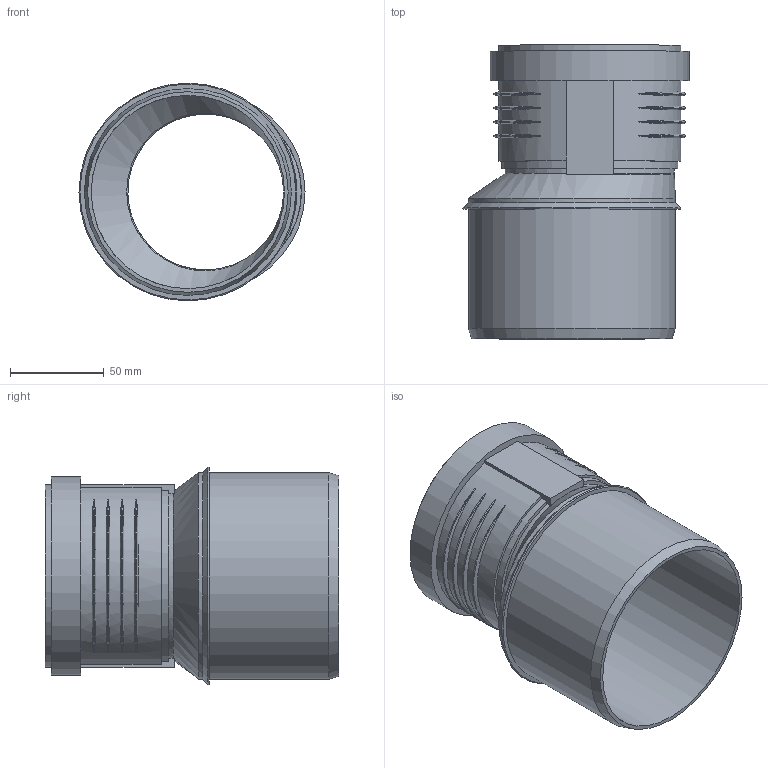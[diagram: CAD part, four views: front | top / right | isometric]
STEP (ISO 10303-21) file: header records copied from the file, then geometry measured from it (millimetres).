
FILE_DESCRIPTION(/* description */ (''),/* implementation_level */ '2;1');
FILE_NAME(/* name */ 'Z:\Geberit\Export\NewStep\390574.stp',/* time_stamp */ '2014-04-02T08:15:15+02:00',/* author */ ('ML'),/* organization */ (''),/* preprocessor_version */ 'ST-DEVELOPER v15.2',/* originating_system */ 'Autodesk Inventor 2014',/* authorisation */ '');
FILE_SCHEMA (('AUTOMOTIVE_DESIGN { 1 0 10303 214 3 1 1 }'));
Length unit declared in the file: millimetre
Products named in the file (3): 861309; 861403; 390574
Bounding box: 120.4 x 156.5 x 116 mm (x, y, z)
Volume: 184350.3 mm3; surface area: 117183.9 mm2
Topology: 2 solids, 2 shells, 68 faces, 162 edges, 112 vertices
Faces by surface type: torus 25, plane 20, cylinder 18, cone 3, bspline 2
Full cylindrical faces by diameter (mm): 83 x1, 84.2 x1, 90.2 x2, 91.2 x2, 97.2 x1, 99.8 x1, 103 x1, 105.8 x1, 110.2 x2
Entity records: 2726 total; most frequent: CARTESIAN_POINT 1117, DIRECTION 296, ORIENTED_EDGE 290, EDGE_CURVE 145, AXIS2_PLACEMENT_3D 130, VERTEX_POINT 111, EDGE_LOOP 102, STYLED_ITEM 68
